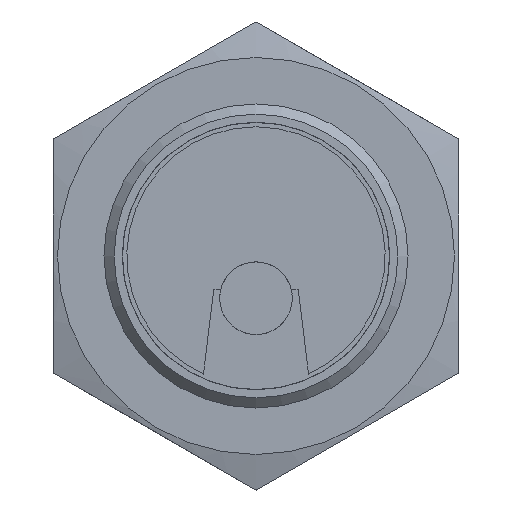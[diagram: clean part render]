
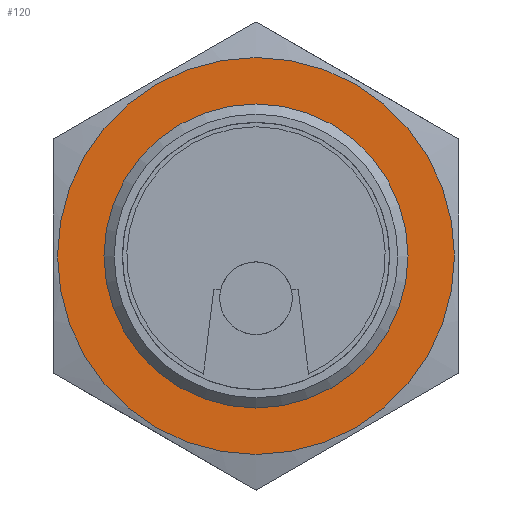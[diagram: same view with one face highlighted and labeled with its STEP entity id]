
A CAD part, left-side view. The second image highlights one B-rep face of the part: STEP entity #120.
In plain terms, the highlighted planar face has unit normal (-1, 0, 0) as drawn and (0, -1, 0) by its records, which use the part's own axes.
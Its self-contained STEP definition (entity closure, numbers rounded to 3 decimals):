
#120 = ADVANCED_FACE( '', ( #236, #237 ), #238, .F. );
#236 = FACE_BOUND( '', #370, .T. );
#237 = FACE_OUTER_BOUND( '', #371, .T. );
#238 = PLANE( '', #372 );
#370 = EDGE_LOOP( '', ( #510 ) );
#371 = EDGE_LOOP( '', ( #511 ) );
#372 = AXIS2_PLACEMENT_3D( '', #512, #513, #514 );
#510 = ORIENTED_EDGE( '', *, *, #770, .F. );
#511 = ORIENTED_EDGE( '', *, *, #771, .T. );
#512 = CARTESIAN_POINT( '', ( 0., -2., 0. ) );
#513 = DIRECTION( '', ( 0., 1., 0. ) );
#514 = DIRECTION( '', ( 0., 0., 1. ) );
#770 = EDGE_CURVE( '', #885, #885, #886, .T. );
#771 = EDGE_CURVE( '', #887, #887, #888, .T. );
#885 = VERTEX_POINT( '', #1044 );
#886 = CIRCLE( '', #1045, 8.459 );
#887 = VERTEX_POINT( '', #1046 );
#888 = CIRCLE( '', #1047, 11.75 );
#1044 = CARTESIAN_POINT( '', ( 8.459, -2., 0. ) );
#1045 = AXIS2_PLACEMENT_3D( '', #1313, #1314, #1315 );
#1046 = CARTESIAN_POINT( '', ( 0., -2., -11.75 ) );
#1047 = AXIS2_PLACEMENT_3D( '', #1316, #1317, #1318 );
#1313 = CARTESIAN_POINT( '', ( 0., -2., 0. ) );
#1314 = DIRECTION( '', ( 0., -1., 0. ) );
#1315 = DIRECTION( '', ( 1., 0., 0. ) );
#1316 = CARTESIAN_POINT( '', ( 0., -2., 0. ) );
#1317 = DIRECTION( '', ( 0., -1., 0. ) );
#1318 = DIRECTION( '', ( 0., 0., -1. ) );
